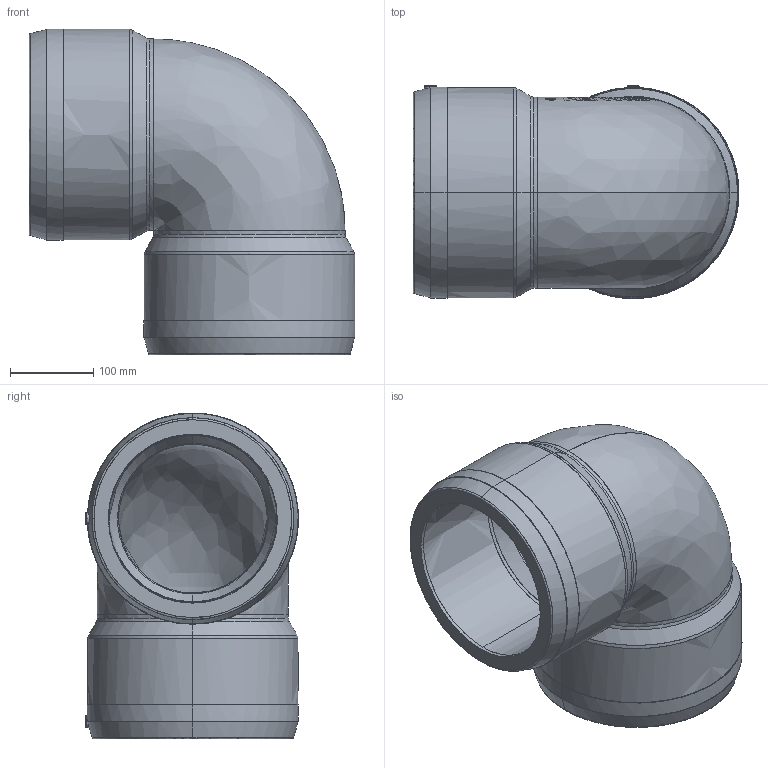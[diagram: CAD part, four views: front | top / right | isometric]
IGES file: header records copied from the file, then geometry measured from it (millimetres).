
Start section:  PTC IGES file: w90_d200_01.igs
Global section: file name: w90_d200_01.igs; native system: Pro/ENGINEER by Parametric Technology Corporation; preprocessor: 2011490; author: mtunjic; organization: Unknown; date: 20130812.085954; units: millimetre
Bounding box: 392 x 256.05 x 392 mm (x, y, z)
Surface area: 692964.4 mm2 (no closed solid volume)
Topology: 0 solids, 0 shells, 266 faces, 1342 edges, 1340 vertices
Faces by surface type: bspline 266
